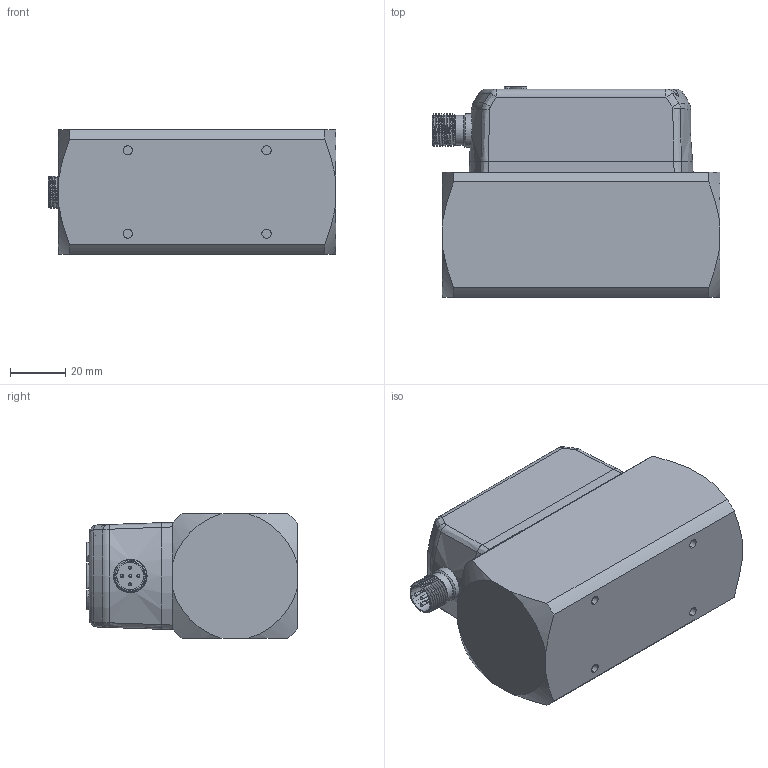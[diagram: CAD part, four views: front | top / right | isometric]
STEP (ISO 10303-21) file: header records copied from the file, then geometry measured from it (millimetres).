
FILE_DESCRIPTION( (''), '2;1');
FILE_NAME( 'QEKH_DN15_female-thread_standard.step', '2025-04-28T16:05:10+08:00', (''), (''), '', '', '');
FILE_SCHEMA (('AUTOMOTIVE_DESIGN { 1 0 10303 214 3 1 1 1 }'));
Length unit declared in the file: millimetre
Products named in the file (1): QEKH DN15_female-thread_standard
Bounding box: 103.71 x 75.9 x 45 mm (x, y, z)
Volume: 299104.2 mm3; surface area: 54930.6 mm2
Topology: 9 solids, 12 shells, 1092 faces, 2882 edges, 1884 vertices
Faces by surface type: plane 537, extrusion 239, cylinder 181, cone 50, bspline 44, torus 32, sphere 9
Full cylindrical faces by diameter (mm): 1 x10, 2.6 x4, 2.7 x5, 3.1 x1, 3.5 x7, 4.5 x4, 9.8 x2, 10.8 x1, 11.992 x2, 12 x4
Entity records: 37756 total; most frequent: CARTESIAN_POINT 11855, ORIENTED_EDGE 5580, DIRECTION 4457, EDGE_CURVE 2790, VECTOR 1875, VERTEX_POINT 1852, LINE 1636, AXIS2_PLACEMENT_3D 1291
